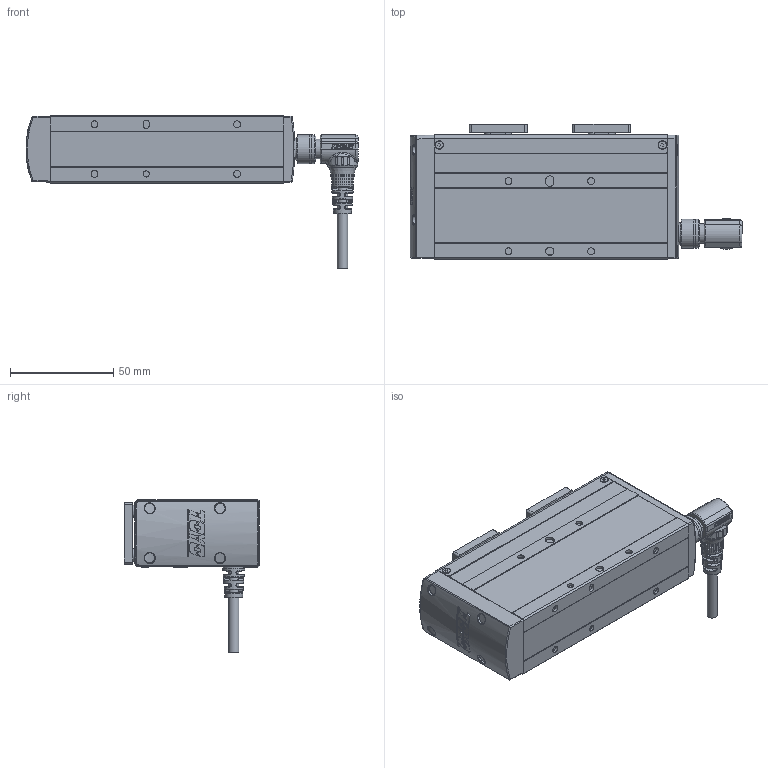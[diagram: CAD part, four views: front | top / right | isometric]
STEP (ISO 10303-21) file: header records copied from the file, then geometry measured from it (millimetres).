
FILE_DESCRIPTION(/* description */ ('STEP AP203'),/* implementation_level */ '2;1');
FILE_NAME(/* name */ 'D:\2025.02.25 帶電匯整給泊舟\3. CHS2系列\4.3D組立\2B-S40\CHS2B-S40-WL.stp',/* time_stamp */ '2025-02-25T17:48:28+08:00',/* author */ ('T10033'),/* organization */ (''),/* preprocessor_version */ 'ST-DEVELOPER v18.1',/* originating_system */ 'Autodesk Inventor 2020',/* authorisation */ '');
FILE_SCHEMA (('CONFIG_CONTROL_DESIGN'));
Products named in the file (7): CHS2C-S40; iso 4762 m2.5 x 6 - 6s_ISO 4762 M2.5 x 6 - 6S; M12 -14PIN  板端-第一種規格; 43T63W4YGT_Shrinkwrap_1; M12-14PIN 線端90度接頭-05中繼線; 12004-000154-03; 22012-000313_M3L10內六角
Assembly tree (15 placements, depth 2):
  CHS2C-S40
    iso 4762 m2.5 x 6 - 6s_ISO 4762 M2.5 x 6 - 6S  x2
    M12 -14PIN  板端-第一種規格
    43T63W4YGT_Shrinkwrap_1
    M12-14PIN 線端90度接頭-05中繼線
    12004-000154-03  x2
    22012-000313_M3L10內六角  x8
Bounding box: 160.72 x 65.5 x 74.5 mm (x, y, z)
Volume: 250897.2 mm3; surface area: 47232.3 mm2
Topology: 29 solids, 34 shells, 2595 faces, 7473 edges, 5072 vertices
Faces by surface type: plane 1141, cone 602, cylinder 584, bspline 159, torus 105, sphere 4
Full cylindrical faces by diameter (mm): 0.6 x14, 0.65 x14, 1 x14, 2 x4, 2.5 x30, 3 x149, 3.2 x8, 3.3 x12, 3.8 x4, 4 x2, 4.5 x2, 5 x1, 5.5 x8, 6 x8, 8 x1, 8.9 x1, 9.5 x2, 9.6 x1, 10.5 x2, 10.9 x1, 11 x2, 11.2 x1, 11.25 x1, 12 x1, 13 x1, 13.8 x1, 14 x2, 14.4 x1, 18.079 x1
Entity records: 91435 total; most frequent: CARTESIAN_POINT 38292, ORIENTED_EDGE 10878, DIRECTION 10670, EDGE_CURVE 5457, AXIS2_PLACEMENT_3D 4019, VERTEX_POINT 3655, LINE 2632, VECTOR 2632
